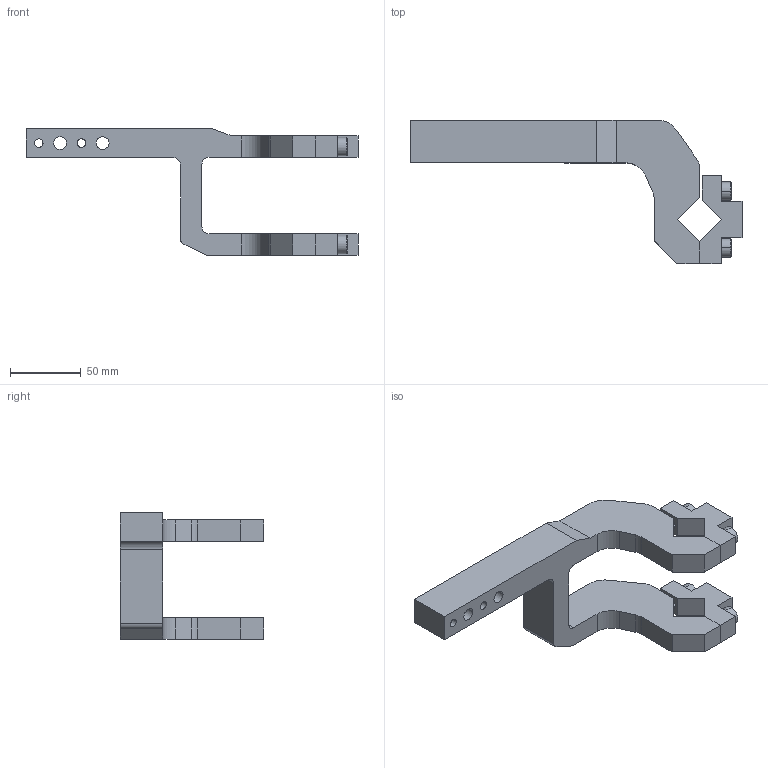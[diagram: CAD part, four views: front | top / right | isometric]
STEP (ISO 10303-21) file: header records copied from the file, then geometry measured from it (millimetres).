
FILE_DESCRIPTION((''),'2;1');
FILE_NAME('S:\Matthew\Step Files\XM Clamp Arms\XJ63-CAL-05.stp','2006-06-28T08:17:25',('Matthew'),(''),'Autodesk Inventor 8','Autodesk Inventor 8','');
FILE_SCHEMA(('AUTOMOTIVE_DESIGN { 1 0 10303 214 1 1 1 1 }'));
Length unit declared in the file: millimetre
Products named in the file (4): XJ63-CAL-05; XJ63-CAL-051; XJ63-CAL-052; XJ63-CAL-053
Assembly tree (3 placements, depth 2):
  XJ63-CAL-05
    XJ63-CAL-051
    XJ63-CAL-052
    XJ63-CAL-053
Bounding box: 234 x 101 x 89 mm (x, y, z)
Volume: 252027.4 mm3; surface area: 61397 mm2
Topology: 3 solids, 3 shells, 155 faces, 395 edges, 254 vertices
Faces by surface type: plane 62, bspline 53, cylinder 24, cone 16
Entity records: 5010 total; most frequent: CARTESIAN_POINT 1270, ORIENTED_EDGE 774, DIRECTION 705, EDGE_CURVE 387, VECTOR 287, LINE 287, VERTEX_POINT 254, AXIS2_PLACEMENT_3D 209
